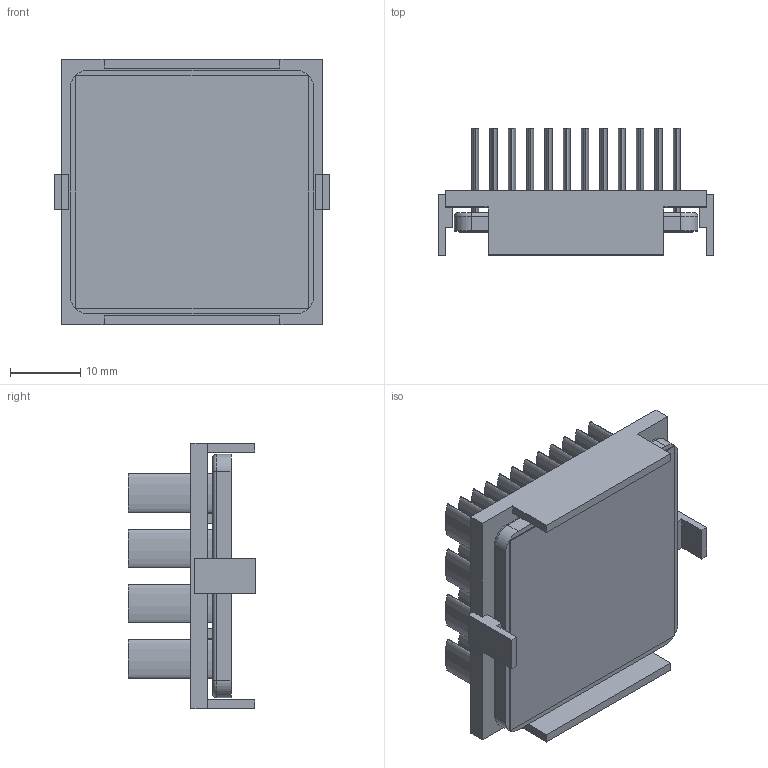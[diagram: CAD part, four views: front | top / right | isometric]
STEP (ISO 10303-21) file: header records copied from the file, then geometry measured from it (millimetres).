
FILE_DESCRIPTION (( 'STEP AP214' ), '1' );
FILE_NAME ('INM35001-15W-2.6Y.STEP', '2023-02-20T22:53:18', ( '' ), ( '' ), 'SwSTEP 2.0', 'SolidWorks 2020', '' );
FILE_SCHEMA (( 'AUTOMOTIVE_DESIGN' ));
Length unit declared in the file: inch
Products named in the file (1): INM35001-15W-2.6Y
Bounding box: 39.2 x 18.1 x 37.7 mm (x, y, z)
Volume: 7651.9 mm3; surface area: 14239.8 mm2
Topology: 3 solids, 3 shells, 226 faces, 508 edges, 336 vertices
Faces by surface type: plane 118, bspline 96, cylinder 8, torus 4
Entity records: 9460 total; most frequent: CARTESIAN_POINT 2319, ORIENTED_EDGE 1016, DIRECTION 598, EDGE_CURVE 508, VERTEX_POINT 336, LINE 296, VECTOR 296, EDGE_LOOP 276
